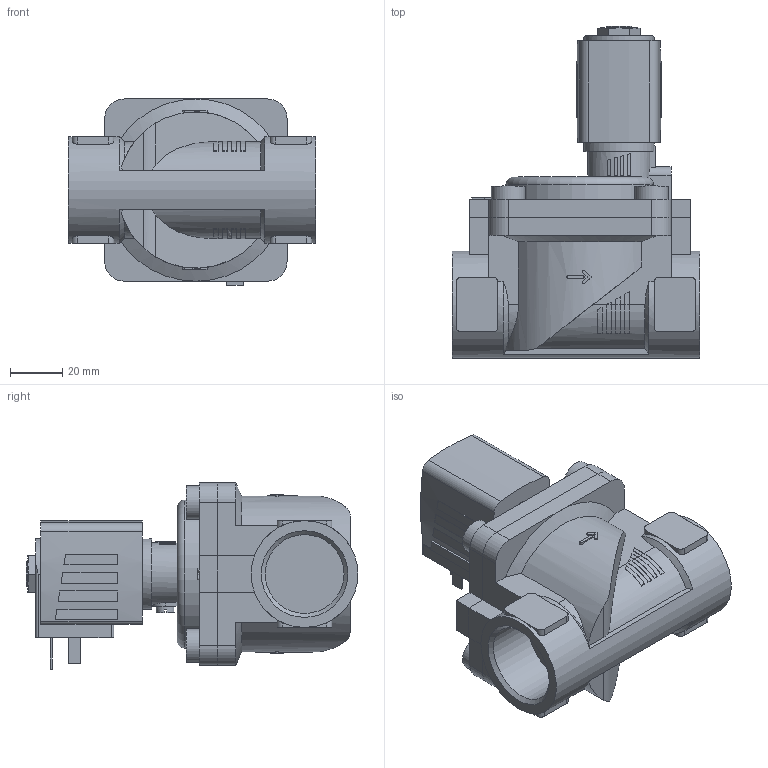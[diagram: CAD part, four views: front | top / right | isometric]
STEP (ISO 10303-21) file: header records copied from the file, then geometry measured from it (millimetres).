
FILE_DESCRIPTION(/* description */ ('STEP AP214'),/* implementation_level */ '2;1');
FILE_NAME(/* name */ '6281-356365-2_2-Way_Solenoid_Valve__Servo-assisted__General_Purpose',/* time_stamp */ '2024-08-27T15:05:47+02:00',/* author */ ('License CC BY-ND 4.0'),/* organization */ ('CADENAS'),/* preprocessor_version */ 'ST-DEVELOPER v19.3',/* originating_system */ 'PARTsolutions',/* authorisation */ ' ');
FILE_SCHEMA (('AUTOMOTIVE_DESIGN {1 0 10303 214 3 1 1}'));
Length unit declared in the file: millimetre
Products named in the file (4): 6281-356365-2/2-Way Solenoid Valve, Servo-assisted, General Purpose; 5281ev252VA2/2-Wege-Magnetventil mit Servomembran-Deckel  HA15 ; 6213-25G1VA-Gehaeuse-; AC10ex-5NA38-Plan-Coil
Assembly tree (3 placements, depth 2):
  6281-356365-2/2-Way Solenoid Valve, Servo-assisted, General Purpose
    5281ev252VA2/2-Wege-Magnetventil mit Servomembran-Deckel  HA15 
    6213-25G1VA-Gehaeuse-
    AC10ex-5NA38-Plan-Coil
Bounding box: 95 x 127.5 x 71.5 mm (x, y, z)
Volume: 297641.1 mm3; surface area: 54184.3 mm2
Topology: 3 solids, 3 shells, 351 faces, 915 edges, 604 vertices
Faces by surface type: plane 245, cylinder 90, cone 15, torus 1
Full cylindrical faces by diameter (mm): 2.013 x1, 7 x1, 9.74 x1, 13 x4, 27 x1, 30.291 x2, 41 x1
Entity records: 12033 total; most frequent: CARTESIAN_POINT 2114, ORIENTED_EDGE 1778, DIRECTION 1774, EDGE_CURVE 889, AXIS2_PLACEMENT_3D 605, VERTEX_POINT 595, LINE 564, VECTOR 564
